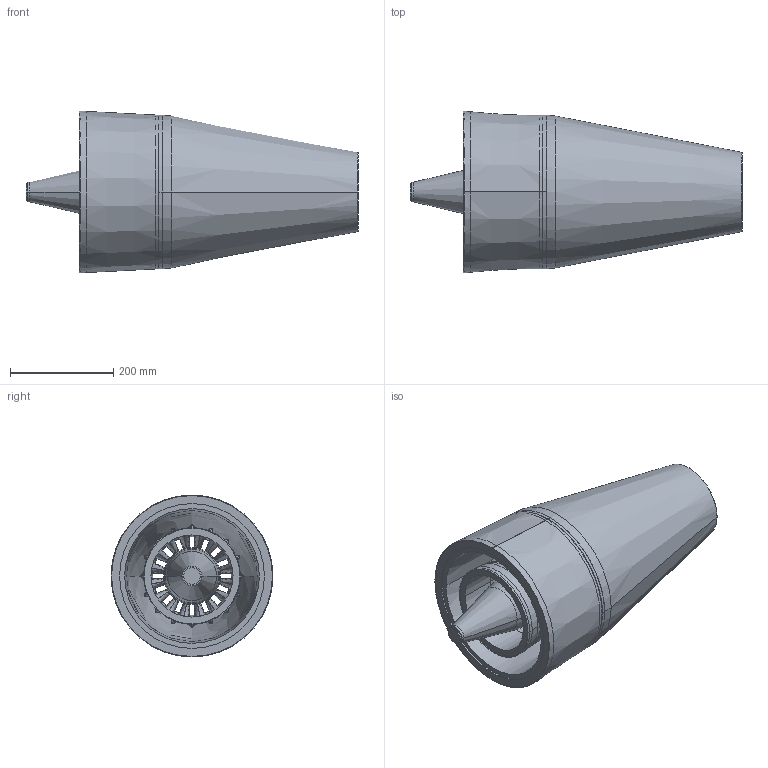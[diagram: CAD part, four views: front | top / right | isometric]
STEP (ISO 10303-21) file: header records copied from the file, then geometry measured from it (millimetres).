
FILE_DESCRIPTION (( 'STEP AP214' ), '1' );
FILE_NAME ('122Am5pIntV1.STEP', '2020-09-16T14:36:10', ( '' ), ( '' ), 'SwSTEP 2.0', 'SolidWorks 2019', '' );
FILE_SCHEMA (( 'AUTOMOTIVE_DESIGN' ));
Length unit declared in the file: inch
Products named in the file (1): 122Am5pIntV1
Bounding box: 644.01 x 314 x 314 mm (x, y, z)
Volume: 6298957.9 mm3; surface area: 1607271.6 mm2
Topology: 38 solids, 38 shells, 418 faces, 992 edges, 659 vertices
Faces by surface type: bspline 268, plane 84, cylinder 32, cone 24, torus 8, sphere 2
Entity records: 93947 total; most frequent: CARTESIAN_POINT 80656, ORIENTED_EDGE 1984, EDGE_CURVE 992, B_SPLINE_CURVE_WITH_KNOTS 812, VERTEX_POINT 659, DIRECTION 606, LENGTH_MEASURE_WITH_UNIT 458, UNCERTAINTY_MEASURE_WITH_UNIT 458
